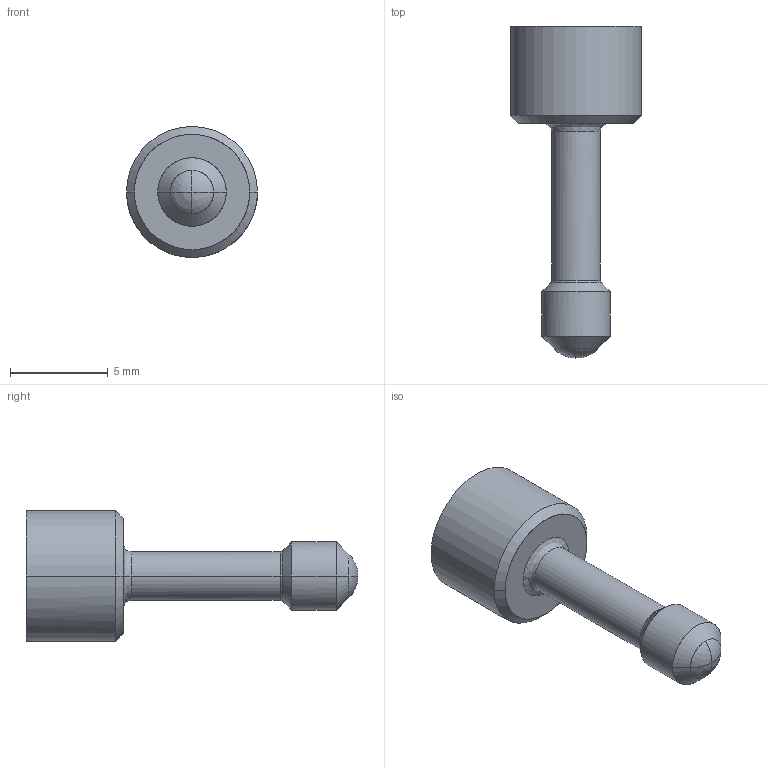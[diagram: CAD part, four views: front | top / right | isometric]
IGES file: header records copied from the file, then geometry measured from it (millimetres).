
Start section: START RECORD GO HERE.
Global section: file name: ia6717sf.igs; native system: DASSAULT SYSTEMES CATIA V5 R20 - www.3ds.com; preprocessor: CATIA Version 5 Release 20 ; author: Utente; organization: NB04-ASUS; date: 20201108.074446; units: millimetre
Bounding box: 6.7 x 16.97 x 6.7 mm (x, y, z)
Surface area: 280.3 mm2 (no closed solid volume)
Topology: 0 solids, 0 shells, 35 faces, 157 edges, 156 vertices
Faces by surface type: revolution 26, plane 9
